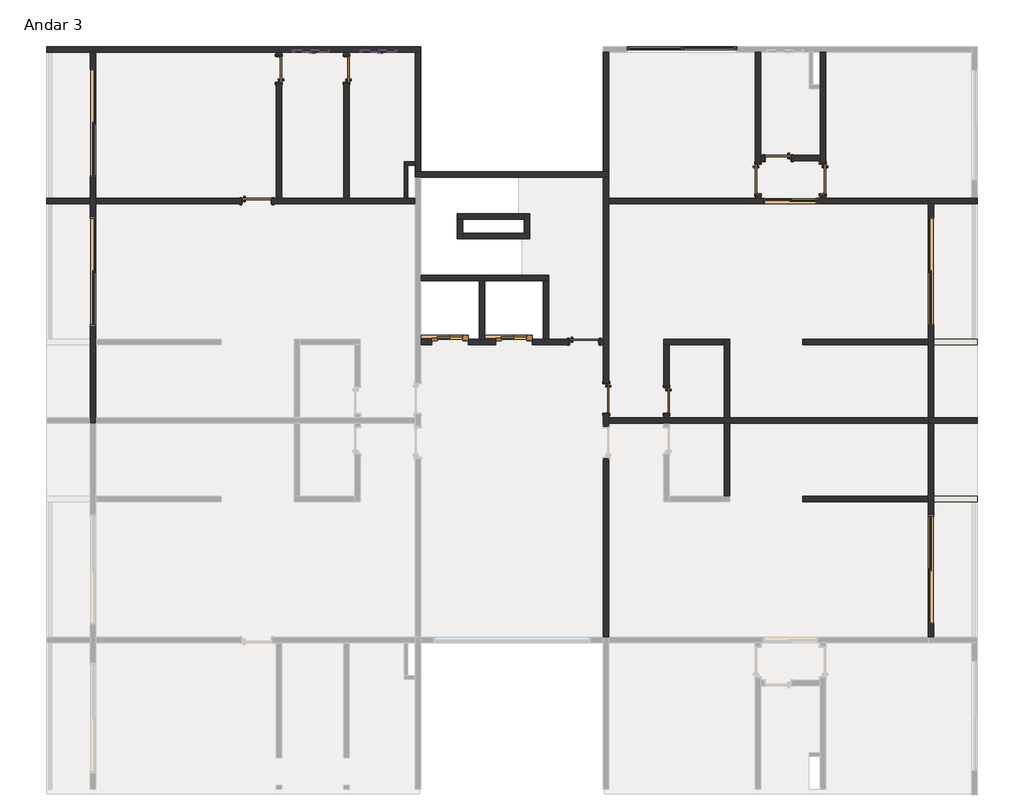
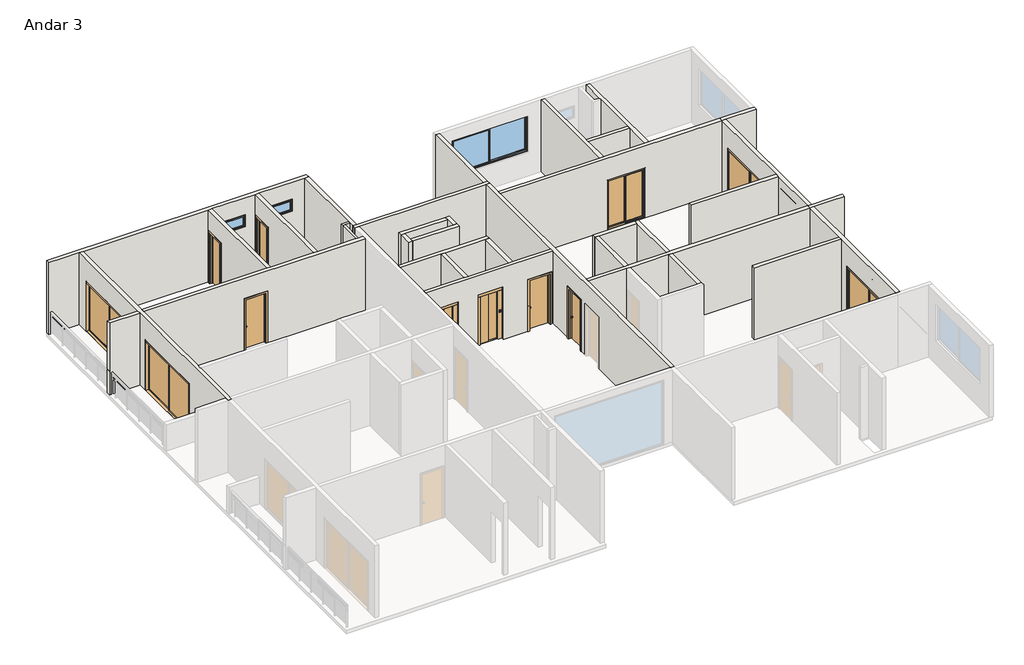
# One storey, part 2 of 3: 37 walls, 16 doors, 3 windows.
"""IFC4 building model written with IfcOpenShell, lengths in millimetres."""

from ifc_helpers import new_model, si_unit, frame, origin, place, context, project, spatial, polyline, outline, extrude, faceted_brep, transform, mapped, element, save
from components import door_ffffc2e2, door_3_00m_x_2_10m_bc451fc0, door_3_00m_x_2_10m_5baaadc1, door_interior_single_flush_panel_wood_70m_89b55d44, door_interior_single_flush_panel_wood_70m_eb1ec4d9, door_interior_single_flush_panel_wood_80m_pcf_cb5077a7, door_interior_single_flush_panel_wood_80m_pcf_192ded05, p2_1_50m_x_2_10m_2a77f288, window_d9182d47, j1_3_00m_x_1_50m_afc201fb

model = new_model("IFC4")

# Units and contexts
model_context = context("Model", 3, world=origin())
ifc_project = project(units=[si_unit("LENGTHUNIT", "METRE", prefix="MILLI")], contexts=[model_context])

# Site, building, storey
site = spatial("IfcSite", under=ifc_project)
building = spatial("IfcBuilding", under=site)
storey = spatial("IfcBuildingStorey", under=building, Name="Andar 3", Elevation=9150.0)

# Doors
placement = place(None, origin())
door_shape = door_ffffc2e2(model_context)
element("IfcDoor", 1, ObjectType="Porta do elevador : Porta do elevador", at=placement, inside=storey, context=model_context, shape_type="MappedRepresentation", body=[
    mapped(door_shape, transform((16900.0, 14650.0, 9150.0), x_axis=(1.0, 0.0, 0.0), y_axis=(0.0, 1.0, 0.0), z_axis=(0.0, 0.0, 1.0))),
])
element("IfcDoor", 2, ObjectType="Porta do elevador : Porta do elevador", at=placement, inside=storey, context=model_context, shape_type="MappedRepresentation", body=[
    mapped(door_shape, transform((18650.0, 14650.0, 9150.0), x_axis=(1.0, 0.0, 0.0), y_axis=(0.0, 1.0, 0.0), z_axis=(0.0, 0.0, 1.0))),
])
door_3_00m_x_2_10m_shape = door_3_00m_x_2_10m_bc451fc0(model_context)
element("IfcDoor", 3, ObjectType="Porta de Correr - 2 Folhas - ComPainel 1 : 3.00m x 2.10m", at=placement, inside=storey, context=model_context, shape_type="MappedRepresentation", body=[
    mapped(door_3_00m_x_2_10m_shape, transform((7275.0, 16604.2060771, 9150.0), x_axis=(0.0, -1.0, 0.0), y_axis=(1.0, 0.0, 0.0), z_axis=(0.0, 0.0, 1.0))),
])
element("IfcDoor", 4, ObjectType="Porta de Correr - 2 Folhas - ComPainel 1 : 3.00m x 2.10m", at=placement, inside=storey, context=model_context, shape_type="MappedRepresentation", body=[
    mapped(door_3_00m_x_2_10m_shape, transform((7275.0, 20664.2060771, 9150.0), x_axis=(0.0, -1.0, 0.0), y_axis=(1.0, 0.0, 0.0), z_axis=(0.0, 0.0, 1.0))),
])
element("IfcDoor", 5, ObjectType="Porta de Correr - 2 Folhas - ComPainel 1 : 3.00m x 2.10m", at=placement, inside=storey, context=model_context, shape_type="MappedRepresentation", body=[
    mapped(door_3_00m_x_2_10m_shape, transform((30175.0, 8395.7939229, 9150.0), x_axis=(0.0, 1.0, 0.0), y_axis=(-1.0, 0.0, 0.0), z_axis=(0.0, 0.0, 1.0))),
])
door_3_00m_x_2_10m_2_shape = door_3_00m_x_2_10m_5baaadc1(model_context)
element("IfcDoor", 6, ObjectType="Porta de Correr - 2 Folhas - ComPainel 1 : 3.00m x 2.10m", at=placement, inside=storey, context=model_context, shape_type="MappedRepresentation", body=[
    mapped(door_3_00m_x_2_10m_2_shape, transform((30175.0, 16604.2060771, 9150.0), x_axis=(0.0, -1.0, 0.0), y_axis=(1.0, 0.0, 0.0), z_axis=(0.0, 0.0, 1.0))),
])
door_interior_single_flush_panel_wood_70m_shape = door_interior_single_flush_panel_wood_70m_89b55d44(model_context)
element("IfcDoor", 7, ObjectType="Door-Interior-Single-Flush_Panel-Wood : .70m", at=placement, inside=storey, context=model_context, shape_type="MappedRepresentation", body=[
    mapped(door_interior_single_flush_panel_wood_70m_shape, transform((22953.175, 13050.4, 9150.0), x_axis=(0.0, -1.0, 0.0), y_axis=(1.0, 0.0, 0.0), z_axis=(0.0, 0.0, 1.0))),
])
door_interior_single_flush_panel_wood_70m_2_shape = door_interior_single_flush_panel_wood_70m_eb1ec4d9(model_context)
element("IfcDoor", 8, ObjectType="Door-Interior-Single-Flush_Panel-Wood : .70m", at=placement, inside=storey, context=model_context, shape_type="MappedRepresentation", body=[
    mapped(door_interior_single_flush_panel_wood_70m_2_shape, transform((14203.175, 22099.6, 9150.0), x_axis=(0.0, 1.0, 0.0), y_axis=(-1.0, 0.0, 0.0), z_axis=(0.0, 0.0, 1.0))),
])
element("IfcDoor", 9, ObjectType="Door-Interior-Single-Flush_Panel-Wood : .70m", at=placement, inside=storey, context=model_context, shape_type="MappedRepresentation", body=[
    mapped(door_interior_single_flush_panel_wood_70m_2_shape, transform((26000.4, 19678.575, 9150.0), x_axis=(-1.0, 0.0, 0.0), y_axis=(0.0, -1.0, 0.0), z_axis=(0.0, 0.0, 1.0))),
])
element("IfcDoor", 10, ObjectType="Door-Interior-Single-Flush_Panel-Wood : .70m", at=placement, inside=storey, context=model_context, shape_type="MappedRepresentation", body=[
    mapped(door_interior_single_flush_panel_wood_70m_2_shape, transform((12353.175, 22099.6, 9150.0), x_axis=(0.0, 1.0, 0.0), y_axis=(-1.0, 0.0, 0.0), z_axis=(0.0, 0.0, 1.0))),
])
door_interior_single_flush_panel_wood_80m_pcf_shape = door_interior_single_flush_panel_wood_80m_pcf_cb5077a7(model_context)
element("IfcDoor", 11, ObjectType="Door-Interior-Single-Flush_Panel-Wood : .80m", at=placement, inside=storey, context=model_context, shape_type="MappedRepresentation", body=[
    mapped(door_interior_single_flush_panel_wood_80m_pcf_shape, transform((25446.825, 19100.4, 9150.0), x_axis=(0.0, -1.0, 0.0), y_axis=(1.0, 0.0, 0.0), z_axis=(0.0, 0.0, 1.0))),
])
door_interior_single_flush_panel_wood_80m_pcf_2_shape = door_interior_single_flush_panel_wood_80m_pcf_192ded05(model_context)
element("IfcDoor", 12, ObjectType="Door-Interior-Single-Flush_Panel-Wood : .80m", at=placement, inside=storey, context=model_context, shape_type="MappedRepresentation", body=[
    mapped(door_interior_single_flush_panel_wood_80m_pcf_2_shape, transform((11749.6, 18503.175, 9150.0), x_axis=(1.0, 0.0, 0.0), y_axis=(0.0, 1.0, 0.0), z_axis=(0.0, 0.0, 1.0))),
])
element("IfcDoor", 13, ObjectType="Door-Interior-Single-Flush_Panel-Wood : .80m", at=placement, inside=storey, context=model_context, shape_type="MappedRepresentation", body=[
    mapped(door_interior_single_flush_panel_wood_80m_pcf_2_shape, transform((27228.175, 19100.4, 9150.0), x_axis=(0.0, -1.0, 0.0), y_axis=(1.0, 0.0, 0.0), z_axis=(0.0, 0.0, 1.0))),
])
element("IfcDoor", 14, ObjectType="Door-Interior-Single-Flush_Panel-Wood : .80m - PCF", at=placement, inside=storey, context=model_context, shape_type="MappedRepresentation", body=[
    mapped(door_interior_single_flush_panel_wood_80m_pcf_2_shape, transform((21303.175, 13100.4, 9150.0), x_axis=(0.0, -1.0, 0.0), y_axis=(1.0, 0.0, 0.0), z_axis=(0.0, 0.0, 1.0))),
])
element("IfcDoor", 15, ObjectType="Door-Interior-Single-Flush_Panel-Wood : .80m - PCF", at=placement, inside=storey, context=model_context, shape_type="MappedRepresentation", body=[
    mapped(door_interior_single_flush_panel_wood_80m_pcf_2_shape, transform((20699.6, 14653.175, 9150.0), x_axis=(1.0, 0.0, 0.0), y_axis=(0.0, 1.0, 0.0), z_axis=(0.0, 0.0, 1.0))),
])
p2_1_50m_x_2_10m_shape = p2_1_50m_x_2_10m_2a77f288(model_context)
element("IfcDoor", 16, ObjectType="Porta de Correr - 2 Folhas - ComPainel 1 : P2 - 1.50m x 2.10m", at=placement, inside=storey, context=model_context, shape_type="MappedRepresentation", body=[
    mapped(p2_1_50m_x_2_10m_shape, transform((26308.2939229, 18500.0, 9150.0), x_axis=(1.0, 0.0, 0.0), y_axis=(0.0, 1.0, 0.0), z_axis=(0.0, 0.0, 1.0))),
])

# Walls
element("IfcWall", 17, ObjectType="M_Parede Normal - 10cm - Interna", at=placement, inside=storey, context=model_context, shape_type="Brep", body=[
    faceted_brep([(16075.0, 19575.0, 9150.0), (15775.0, 19575.0, 9150.0), (15775.0, 19575.0, 12150.0), (16075.0, 19575.0, 12150.0), (16075.0, 19475.0, 9150.0), (16075.0, 19475.0, 12150.0), (15875.0, 19475.0, 12150.0), (15775.0, 19475.0, 12150.0), (15775.0, 19475.0, 9150.0), (15875.0, 19475.0, 9150.0)], [[[0, 1, 2, 3]], [[4, 5, 6, 7, 8, 9]], [[1, 0, 4, 9, 8]], [[3, 2, 7, 6, 5]], [[0, 3, 5, 4]], [[2, 1, 8, 7]]]),
])
element("IfcWall", 18, ObjectType="M_Parede Normal - 10cm - Interna", at=placement, inside=storey, context=model_context, shape_type="SweptSolid", body=[
    extrude(outline(polyline([(15775.0, 18575.0), (15775.0, 19475.0), (15875.0, 19475.0), (15875.0, 18575.0), (15775.0, 18575.0)])), frame((0.0, 0.0, 9150.0), z_axis=(0.0, 0.0, 1.0), x_axis=(1.0, 0.0, 0.0)), (0.0, 0.0, 1.0), 3000.0),
])
element("IfcWall", 19, ObjectType="M_Parede Normal - 15cm - Externa", at=placement, inside=storey, context=model_context, shape_type="Brep", body=[
    faceted_brep([(16075.0, 22575.0, 9150.0), (16075.0, 19575.0, 9150.0), (16075.0, 19475.0, 9150.0), (16075.0, 19299.2009656, 9150.0), (16075.0, 19299.2009656, 12150.0), (16075.0, 19475.0, 12150.0), (16075.0, 19575.0, 12150.0), (16075.0, 22525.0, 12150.0), (16075.0, 22575.0, 12150.0), (16225.0, 22575.0, 9150.0), (16225.0, 22575.0, 12150.0), (16225.0, 19299.2009656, 12150.0), (16225.0, 19299.2009656, 9150.0)], [[[0, 1, 2, 3, 4, 5, 6, 7, 8]], [[9, 10, 11, 12]], [[3, 2, 1, 0, 9, 12]], [[8, 7, 6, 5, 4, 11, 10]], [[0, 8, 10, 9]], [[4, 3, 12, 11]]]),
])
element("IfcWall", 20, ObjectType="M_Parede Normal - 15cm - Externa", at=placement, inside=storey, context=model_context, shape_type="Brep", body=[
    faceted_brep([(6000.0, 22575.0, 9150.0), (7200.0, 22575.0, 9150.0), (7350.0, 22575.0, 9150.0), (12275.0, 22575.0, 9150.0), (12425.0, 22575.0, 9150.0), (14125.0, 22575.0, 9150.0), (14275.0, 22575.0, 9150.0), (16075.0, 22575.0, 9150.0), (16225.0, 22575.0, 9150.0), (16225.0, 22575.0, 12150.0), (16075.0, 22575.0, 12150.0), (15725.0, 22575.0, 12150.0), (14275.0, 22575.0, 12150.0), (14125.0, 22575.0, 12150.0), (12425.0, 22575.0, 12150.0), (12275.0, 22575.0, 12150.0), (7350.0, 22575.0, 12150.0), (7200.0, 22575.0, 12150.0), (6500.0, 22575.0, 12150.0), (6000.0, 22575.0, 12150.0), (15575.0, 22575.0, 11450.0), (15575.0, 22575.0, 10950.0), (14575.0, 22575.0, 10950.0), (14575.0, 22575.0, 11450.0), (13725.0, 22575.0, 11450.0), (13725.0, 22575.0, 10950.0), (12725.0, 22575.0, 10950.0), (12725.0, 22575.0, 11450.0), (16225.0, 22725.0, 9150.0), (6000.0, 22725.0, 9150.0), (6000.0, 22725.0, 12150.0), (16225.0, 22725.0, 12150.0), (15575.0, 22725.0, 10950.0), (15575.0, 22725.0, 11450.0), (14575.0, 22725.0, 11450.0), (14575.0, 22725.0, 10950.0), (13725.0, 22725.0, 10950.0), (13725.0, 22725.0, 11450.0), (12725.0, 22725.0, 11450.0), (12725.0, 22725.0, 10950.0)], [[[0, 1, 2, 3, 4, 5, 6, 7, 8, 9, 10, 11, 12, 13, 14, 15, 16, 17, 18, 19], [20, 21, 22, 23], [24, 25, 26, 27]], [[28, 29, 30, 31], [32, 33, 34, 35], [36, 37, 38, 39]], [[8, 7, 6, 5, 4, 3, 2, 1, 0, 29, 28]], [[19, 18, 17, 16, 15, 14, 13, 12, 11, 10, 9, 31, 30]], [[0, 19, 30, 29]], [[32, 21, 20, 33]], [[34, 23, 22, 35]], [[21, 32, 35, 22]], [[23, 34, 33, 20]], [[37, 36, 25, 24]], [[38, 37, 24, 27]], [[39, 38, 27, 26]], [[36, 39, 26, 25]], [[9, 8, 28, 31]]]),
])
element("IfcWall", 21, ObjectType="M_Parede Normal - 15cm - Externa", at=placement, inside=storey, context=model_context, shape_type="Brep", body=[
    faceted_brep([(31450.0, 12575.0, 9150.0), (30250.0, 12575.0, 9150.0), (30100.0, 12575.0, 9150.0), (30100.0, 12575.0, 12150.0), (30250.0, 12575.0, 12150.0), (30950.0, 12575.0, 12150.0), (31450.0, 12575.0, 12150.0), (31450.0, 12425.0, 9150.0), (31450.0, 12425.0, 12150.0), (30950.0, 12425.0, 12150.0), (30250.0, 12425.0, 12150.0), (30100.0, 12425.0, 12150.0), (30100.0, 12425.0, 9150.0), (30250.0, 12425.0, 9150.0)], [[[0, 1, 2, 3, 4, 5, 6]], [[7, 8, 9, 10, 11, 12, 13]], [[2, 1, 0, 7, 13, 12]], [[6, 5, 4, 3, 11, 10, 9, 8]], [[0, 6, 8, 7]], [[3, 2, 12, 11]]]),
])
element("IfcWall", 22, ObjectType="M_Parede Normal - 15cm - Externa", at=placement, inside=storey, context=model_context, shape_type="Brep", body=[
    faceted_brep([(7350.0, 22575.0, 12150.0), (7350.0, 18575.0, 12150.0), (7350.0, 18425.0, 12150.0), (7350.0, 12575.0, 12150.0), (7350.0, 12425.0, 12150.0), (7350.0, 12425.0, 9150.0), (7350.0, 12575.0, 9150.0), (7350.0, 15075.0, 9150.0), (7350.0, 15075.0, 11250.0), (7350.0, 18075.0, 11250.0), (7350.0, 18075.0, 9150.0), (7350.0, 18425.0, 9150.0), (7350.0, 18575.0, 9150.0), (7350.0, 19135.0, 9150.0), (7350.0, 19135.0, 11250.0), (7350.0, 22135.0, 11250.0), (7350.0, 22135.0, 9150.0), (7350.0, 22575.0, 9150.0), (7200.0, 12425.0, 12150.0), (7200.0, 12575.0, 12150.0), (7200.0, 18425.0, 12150.0), (7200.0, 18575.0, 12150.0), (7200.0, 22575.0, 12150.0), (7200.0, 22575.0, 9150.0), (7200.0, 22135.0, 9150.0), (7200.0, 22135.0, 11250.0), (7200.0, 19135.0, 11250.0), (7200.0, 19135.0, 9150.0), (7200.0, 18575.0, 9150.0), (7200.0, 18425.0, 9150.0), (7200.0, 18075.0, 9150.0), (7200.0, 18075.0, 11250.0), (7200.0, 15075.0, 11250.0), (7200.0, 15075.0, 9150.0), (7200.0, 12575.0, 9150.0), (7200.0, 12425.0, 9150.0)], [[[0, 1, 2, 3, 4, 5, 6, 7, 8, 9, 10, 11, 12, 13, 14, 15, 16, 17]], [[18, 19, 20, 21, 22, 23, 24, 25, 26, 27, 28, 29, 30, 31, 32, 33, 34, 35]], [[23, 17, 16, 24]], [[10, 30, 29, 28, 27, 13, 12, 11]], [[7, 6, 5, 35, 34, 33]], [[4, 3, 2, 1, 0, 22, 21, 20, 19, 18]], [[0, 17, 23, 22]], [[32, 8, 7, 33]], [[8, 32, 31, 9]], [[9, 31, 30, 10]], [[26, 14, 13, 27]], [[14, 26, 25, 15]], [[15, 25, 24, 16]], [[5, 4, 18, 35]]]),
])
element("IfcWall", 23, ObjectType="M_Parede Normal - 15cm - Externa", at=placement, inside=storey, context=model_context, shape_type="Brep", body=[
    faceted_brep([(21225.0, 22575.0, 9150.0), (21225.0, 19299.2009656, 9150.0), (21225.0, 19299.2009656, 12150.0), (21225.0, 22575.0, 12150.0), (21375.0, 22575.0, 9150.0), (21375.0, 22575.0, 12150.0), (21375.0, 22525.0, 12150.0), (21375.0, 19299.2009656, 12150.0), (21375.0, 19299.2009656, 9150.0)], [[[0, 1, 2, 3]], [[4, 5, 6, 7, 8]], [[1, 0, 4, 8]], [[3, 2, 7, 6, 5]], [[0, 3, 5, 4]], [[2, 1, 8, 7]]]),
])
element("IfcWall", 24, ObjectType="M_Parede Normal - 15cm - Externa", at=placement, inside=storey, context=model_context, shape_type="Brep", body=[
    faceted_brep([(30250.0, 18425.0, 12150.0), (30250.0, 12575.0, 12150.0), (30250.0, 12575.0, 9150.0), (30250.0, 15075.0, 9150.0), (30250.0, 15075.0, 11250.0), (30250.0, 18075.0, 11250.0), (30250.0, 18075.0, 9150.0), (30250.0, 18425.0, 9150.0), (30100.0, 12575.0, 12150.0), (30100.0, 14575.0, 12150.0), (30100.0, 14725.0, 12150.0), (30100.0, 18425.0, 12150.0), (30100.0, 18425.0, 9150.0), (30100.0, 18075.0, 9150.0), (30100.0, 18075.0, 11250.0), (30100.0, 15075.0, 11250.0), (30100.0, 15075.0, 9150.0), (30100.0, 14725.0, 9150.0), (30100.0, 14575.0, 9150.0), (30100.0, 12575.0, 9150.0)], [[[0, 1, 2, 3, 4, 5, 6, 7]], [[8, 9, 10, 11, 12, 13, 14, 15, 16, 17, 18, 19]], [[12, 7, 6, 13]], [[2, 19, 18, 17, 16, 3]], [[1, 0, 11, 10, 9, 8]], [[0, 7, 12, 11]], [[15, 4, 3, 16]], [[4, 15, 14, 5]], [[5, 14, 13, 6]], [[2, 1, 8, 19]]]),
])
element("IfcWall", 25, ObjectType="M_Parede Normal - 15cm - Externa", at=placement, inside=storey, context=model_context, shape_type="SweptSolid", body=[
    extrude(outline(polyline([(30250.0, 14725.0), (31450.0, 14725.0), (31450.0, 14575.0), (30250.0, 14575.0), (30250.0, 14725.0)])), frame((0.0, 0.0, 9150.0), z_axis=(0.0, 0.0, 1.0), x_axis=(1.0, 0.0, 0.0)), (0.0, 0.0, 1.0), 1100.0),
])
element("IfcWall", 26, ObjectType="M_Parede Normal - 15cm - Externa", at=placement, inside=storey, context=model_context, shape_type="SweptSolid", body=[
    extrude(outline(polyline([(6000.0, 18575.0), (7200.0, 18575.0), (7200.0, 18425.0), (6000.0, 18425.0), (6000.0, 18575.0)])), frame((0.0, 0.0, 9150.0), z_axis=(0.0, 0.0, 1.0), x_axis=(1.0, 0.0, 0.0)), (0.0, 0.0, 1.0), 3000.0),
])
element("IfcWall", 27, ObjectType="M_Parede Normal - 15cm - Externa", at=placement, inside=storey, context=model_context, shape_type="Brep", body=[
    faceted_brep([(30100.0, 18425.0, 9150.0), (30250.0, 18425.0, 9150.0), (31450.0, 18425.0, 9150.0), (31450.0, 18425.0, 12150.0), (30250.0, 18425.0, 12150.0), (30100.0, 18425.0, 12150.0), (30100.0, 18575.0, 9150.0), (30100.0, 18575.0, 12150.0), (31300.0, 18575.0, 12150.0), (31450.0, 18575.0, 12150.0), (31450.0, 18575.0, 9150.0), (31300.0, 18575.0, 9150.0)], [[[0, 1, 2, 3, 4, 5]], [[6, 7, 8, 9, 10, 11]], [[2, 1, 0, 6, 11, 10]], [[5, 4, 3, 9, 8, 7]], [[3, 2, 10, 9]], [[0, 5, 7, 6]]]),
])
element("IfcWall", 28, ObjectType="M_Parede Normal - 15cm - Externa", at=placement, inside=storey, context=model_context, shape_type="Brep", body=[
    faceted_brep([(30100.0, 6575.0, 12150.0), (30100.0, 10275.0, 12150.0), (30100.0, 10425.0, 12150.0), (30100.0, 12425.0, 12150.0), (30100.0, 12425.0, 9150.0), (30100.0, 10425.0, 9150.0), (30100.0, 10275.0, 9150.0), (30100.0, 9925.0, 9150.0), (30100.0, 9925.0, 11250.0), (30100.0, 6925.0, 11250.0), (30100.0, 6925.0, 9150.0), (30100.0, 6575.0, 9150.0), (30250.0, 12425.0, 12150.0), (30250.0, 6575.0, 12150.0), (30250.0, 6575.0, 9150.0), (30250.0, 6925.0, 9150.0), (30250.0, 6925.0, 11250.0), (30250.0, 9925.0, 11250.0), (30250.0, 9925.0, 9150.0), (30250.0, 12425.0, 9150.0)], [[[0, 1, 2, 3, 4, 5, 6, 7, 8, 9, 10, 11]], [[12, 13, 14, 15, 16, 17, 18, 19]], [[14, 11, 10, 15]], [[4, 19, 18, 7, 6, 5]], [[3, 2, 1, 0, 13, 12]], [[0, 11, 14, 13]], [[4, 3, 12, 19]], [[17, 8, 7, 18]], [[8, 17, 16, 9]], [[9, 16, 15, 10]]]),
])
element("IfcWall", 29, ObjectType="M_Parede Normal - 15cm - Externa", at=placement, inside=storey, context=model_context, shape_type="SweptSolid", body=[
    extrude(outline(polyline([(30250.0, 10425.0), (31450.0, 10425.0), (31450.0, 10275.0), (30250.0, 10275.0), (30250.0, 10425.0)])), frame((0.0, 0.0, 9150.0), z_axis=(0.0, 0.0, 1.0), x_axis=(1.0, 0.0, 0.0)), (0.0, 0.0, 1.0), 1100.0),
])
element("IfcWall", 30, ObjectType="M_Parede Normal - 15cm - Externa", at=placement, inside=storey, context=model_context, shape_type="Brep", body=[
    faceted_brep([(16075.0, 19149.2009656, 9150.0), (16225.0, 19149.2009656, 9150.0), (21225.0, 19149.2009656, 9150.0), (21375.0, 19149.2009656, 9150.0), (21375.0, 19149.2009656, 12150.0), (21225.0, 19149.2009656, 12150.0), (20875.0, 19149.2009656, 12150.0), (16575.0, 19149.2009656, 12150.0), (16225.0, 19149.2009656, 12150.0), (16075.0, 19149.2009656, 12150.0), (16075.0, 19299.2009656, 9150.0), (16075.0, 19299.2009656, 12150.0), (16225.0, 19299.2009656, 12150.0), (21225.0, 19299.2009656, 12150.0), (21375.0, 19299.2009656, 12150.0), (21375.0, 19299.2009656, 9150.0), (21225.0, 19299.2009656, 9150.0), (16225.0, 19299.2009656, 9150.0)], [[[0, 1, 2, 3, 4, 5, 6, 7, 8, 9]], [[10, 11, 12, 13, 14, 15, 16, 17]], [[3, 2, 1, 0, 10, 17, 16, 15]], [[9, 8, 7, 6, 5, 4, 14, 13, 12, 11]], [[0, 9, 11, 10]], [[4, 3, 15, 14]]]),
])
element("IfcWall", 31, ObjectType="M_Parede Normal - 15cm - Interna", at=placement, inside=storey, context=model_context, shape_type="Brep", body=[
    faceted_brep([(7350.0, 18575.0, 12150.0), (12275.0, 18575.0, 12150.0), (12425.0, 18575.0, 12150.0), (14125.0, 18575.0, 12150.0), (14275.0, 18575.0, 12150.0), (15775.0, 18575.0, 12150.0), (15875.0, 18575.0, 12150.0), (16075.0, 18575.0, 12150.0), (16075.0, 18575.0, 9150.0), (15875.0, 18575.0, 9150.0), (15775.0, 18575.0, 9150.0), (14275.0, 18575.0, 9150.0), (14125.0, 18575.0, 9150.0), (12425.0, 18575.0, 9150.0), (12275.0, 18575.0, 9150.0), (12175.0, 18575.0, 9150.0), (12175.0, 18575.0, 11275.4), (11324.2, 18575.0, 11275.4), (11324.2, 18575.0, 9150.0), (7350.0, 18575.0, 9150.0), (16075.0, 18425.0, 12150.0), (7350.0, 18425.0, 12150.0), (7350.0, 18425.0, 9150.0), (11324.2, 18425.0, 9150.0), (11324.2, 18425.0, 11275.4), (12175.0, 18425.0, 11275.4), (12175.0, 18425.0, 9150.0), (16075.0, 18425.0, 9150.0)], [[[0, 1, 2, 3, 4, 5, 6, 7, 8, 9, 10, 11, 12, 13, 14, 15, 16, 17, 18, 19]], [[20, 21, 22, 23, 24, 25, 26, 27]], [[8, 27, 26, 15, 14, 13, 12, 11, 10, 9]], [[22, 19, 18, 23]], [[7, 6, 5, 4, 3, 2, 1, 0, 21, 20]], [[8, 7, 20, 27]], [[25, 16, 15, 26]], [[16, 25, 24, 17]], [[17, 24, 23, 18]], [[0, 19, 22, 21]]]),
])
element("IfcWall", 32, ObjectType="M_Parede Normal - 15cm - Interna", at=placement, inside=storey, context=model_context, shape_type="SweptSolid", body=[
    extrude(outline(polyline([(18575.0, 12150.0), (22575.0, 12150.0), (22575.0, 9150.0), (22475.0, 9150.0), (22475.0, 11275.4), (21724.2, 11275.4), (21724.2, 9150.0), (18575.0, 9150.0), (18575.0, 12150.0)])), frame((14125.0, 0.0, 0.0), z_axis=(1.0, 0.0, 0.0), x_axis=(0.0, 1.0, 0.0)), (0.0, 0.0, 1.0), 150.0),
])
element("IfcWall", 33, ObjectType="M_Parede Normal - 15cm - Interna", at=placement, inside=storey, context=model_context, shape_type="Brep", body=[
    faceted_brep([(30100.0, 18425.0, 12150.0), (21375.0, 18425.0, 12150.0), (21375.0, 18425.0, 9150.0), (25587.5, 18425.0, 9150.0), (25587.5, 18425.0, 11250.0), (27087.5, 18425.0, 11250.0), (27087.5, 18425.0, 9150.0), (30100.0, 18425.0, 9150.0), (21375.0, 18575.0, 12150.0), (25375.0, 18575.0, 12150.0), (25525.0, 18575.0, 12150.0), (27150.0, 18575.0, 12150.0), (27300.0, 18575.0, 12150.0), (30100.0, 18575.0, 12150.0), (30100.0, 18575.0, 9150.0), (27300.0, 18575.0, 9150.0), (27150.0, 18575.0, 9150.0), (27087.5, 18575.0, 9150.0), (27087.5, 18575.0, 11250.0), (25587.5, 18575.0, 11250.0), (25587.5, 18575.0, 9150.0), (25525.0, 18575.0, 9150.0), (25375.0, 18575.0, 9150.0), (21375.0, 18575.0, 9150.0)], [[[0, 1, 2, 3, 4, 5, 6, 7]], [[8, 9, 10, 11, 12, 13, 14, 15, 16, 17, 18, 19, 20, 21, 22, 23]], [[2, 23, 22, 21, 20, 3]], [[14, 7, 6, 17, 16, 15]], [[1, 0, 13, 12, 11, 10, 9, 8]], [[2, 1, 8, 23]], [[0, 7, 14, 13]], [[5, 18, 17, 6]], [[18, 5, 4, 19]], [[19, 4, 3, 20]]]),
])
element("IfcWall", 34, ObjectType="M_Parede Normal - 15cm - Interna", at=placement, inside=storey, context=model_context, shape_type="SweptSolid", body=[
    extrude(outline(polyline([(12575.0, 12150.0), (14575.0, 12150.0), (14575.0, 9150.0), (13425.8, 9150.0), (13425.8, 11275.4), (12675.0, 11275.4), (12675.0, 9150.0), (12575.0, 9150.0), (12575.0, 12150.0)])), frame((22875.0, 0.0, 0.0), z_axis=(1.0, 0.0, 0.0), x_axis=(0.0, 1.0, 0.0)), (0.0, 0.0, 1.0), 150.0),
])
element("IfcWall", 35, ObjectType="M_Parede Normal - 15cm - Interna", at=placement, inside=storey, context=model_context, shape_type="Brep", body=[
    faceted_brep([(22875.0, 14575.0, 9150.0), (23025.0, 14575.0, 9150.0), (24525.0, 14575.0, 9150.0), (24525.0, 14575.0, 12150.0), (23025.0, 14575.0, 12150.0), (22875.0, 14575.0, 12150.0), (22875.0, 14725.0, 9150.0), (22875.0, 14725.0, 12150.0), (24525.0, 14725.0, 12150.0), (24525.0, 14725.0, 9150.0)], [[[0, 1, 2, 3, 4, 5]], [[6, 7, 8, 9]], [[2, 1, 0, 6, 9]], [[5, 4, 3, 8, 7]], [[0, 5, 7, 6]], [[3, 2, 9, 8]]]),
])
element("IfcWall", 36, ObjectType="M_Parede Normal - 15cm - Interna", at=placement, inside=storey, context=model_context, shape_type="Brep", body=[
    faceted_brep([(24525.0, 14725.0, 9150.0), (24525.0, 14575.0, 9150.0), (24525.0, 12575.0, 9150.0), (24525.0, 12575.0, 12150.0), (24525.0, 14575.0, 12150.0), (24525.0, 14725.0, 12150.0), (24675.0, 14725.0, 9150.0), (24675.0, 14725.0, 12150.0), (24675.0, 12575.0, 12150.0), (24675.0, 12575.0, 9150.0)], [[[0, 1, 2, 3, 4, 5]], [[6, 7, 8, 9]], [[2, 1, 0, 6, 9]], [[5, 4, 3, 8, 7]], [[0, 5, 7, 6]], [[3, 2, 9, 8]]]),
])
element("IfcWall", 37, ObjectType="M_Parede Normal - 15cm - Interna", at=placement, inside=storey, context=model_context, shape_type="Brep", body=[
    faceted_brep([(27300.0, 22575.0, 12150.0), (27300.0, 18575.0, 12150.0), (27300.0, 18575.0, 9150.0), (27300.0, 18675.0, 9150.0), (27300.0, 18675.0, 11275.4), (27300.0, 19525.8, 11275.4), (27300.0, 19525.8, 9150.0), (27300.0, 22575.0, 9150.0), (27150.0, 18575.0, 12150.0), (27150.0, 19600.4, 12150.0), (27150.0, 19750.4, 12150.0), (27150.0, 21575.0, 12150.0), (27150.0, 21675.0, 12150.0), (27150.0, 22575.0, 12150.0), (27150.0, 22575.0, 9150.0), (27150.0, 21675.0, 9150.0), (27150.0, 21575.0, 9150.0), (27150.0, 19750.4, 9150.0), (27150.0, 19600.4, 9150.0), (27150.0, 19525.8, 9150.0), (27150.0, 19525.8, 11275.4), (27150.0, 18675.0, 11275.4), (27150.0, 18675.0, 9150.0), (27150.0, 18575.0, 9150.0)], [[[0, 1, 2, 3, 4, 5, 6, 7]], [[8, 9, 10, 11, 12, 13, 14, 15, 16, 17, 18, 19, 20, 21, 22, 23]], [[2, 23, 22, 3]], [[14, 7, 6, 19, 18, 17, 16, 15]], [[1, 0, 13, 12, 11, 10, 9, 8]], [[2, 1, 8, 23]], [[0, 7, 14, 13]], [[21, 4, 3, 22]], [[4, 21, 20, 5]], [[5, 20, 19, 6]]]),
])
element("IfcWall", 38, ObjectType="M_Parede Normal - 15cm - Interna", at=placement, inside=storey, context=model_context, shape_type="Brep", body=[
    faceted_brep([(25525.0, 22575.0, 12150.0), (25525.0, 19750.4, 12150.0), (25525.0, 19600.4, 12150.0), (25525.0, 18575.0, 12150.0), (25525.0, 18575.0, 9150.0), (25525.0, 18675.0, 9150.0), (25525.0, 18675.0, 11275.4), (25525.0, 19525.8, 11275.4), (25525.0, 19525.8, 9150.0), (25525.0, 19600.4, 9150.0), (25525.0, 19750.4, 9150.0), (25525.0, 22575.0, 9150.0), (25375.0, 18575.0, 12150.0), (25375.0, 22575.0, 12150.0), (25375.0, 22575.0, 9150.0), (25375.0, 19525.8, 9150.0), (25375.0, 19525.8, 11275.4), (25375.0, 18675.0, 11275.4), (25375.0, 18675.0, 9150.0), (25375.0, 18575.0, 9150.0)], [[[0, 1, 2, 3, 4, 5, 6, 7, 8, 9, 10, 11]], [[12, 13, 14, 15, 16, 17, 18, 19]], [[4, 19, 18, 5]], [[14, 11, 10, 9, 8, 15]], [[3, 2, 1, 0, 13, 12]], [[4, 3, 12, 19]], [[0, 11, 14, 13]], [[17, 6, 5, 18]], [[6, 17, 16, 7]], [[7, 16, 15, 8]]]),
])
element("IfcWall", 39, ObjectType="M_Parede Normal - 15cm - Interna", at=placement, inside=storey, context=model_context, shape_type="SweptSolid", body=[
    extrude(outline(polyline([(12150.0, 27150.0), (12150.0, 25525.0), (9150.0, 25525.0), (9150.0, 25625.0), (11275.4, 25625.0), (11275.4, 26375.8), (9150.0, 26375.8), (9150.0, 27150.0), (12150.0, 27150.0)])), frame((0.0, 19600.4, 0.0), z_axis=(0.0, 1.0, 0.0), x_axis=(0.0, 0.0, 1.0)), (0.0, 0.0, 1.0), 150.0),
])
element("IfcWall", 40, ObjectType="M_Parede Normal - 15cm - Interna", at=placement, inside=storey, context=model_context, shape_type="Brep", body=[
    faceted_brep([(17225.4, 17998.8009656, 9150.0), (17375.4, 17998.8009656, 9150.0), (19055.0, 17998.8009656, 9150.0), (19055.0, 17998.8009656, 12150.0), (17375.4, 17998.8009656, 12150.0), (17225.4, 17998.8009656, 12150.0), (17225.4, 18148.8009656, 9150.0), (17225.4, 18148.8009656, 12150.0), (19055.0, 18148.8009656, 12150.0), (19055.0, 18148.8009656, 9150.0)], [[[0, 1, 2, 3, 4, 5]], [[6, 7, 8, 9]], [[2, 1, 0, 6, 9]], [[5, 4, 3, 8, 7]], [[0, 5, 7, 6]], [[3, 2, 9, 8]]]),
])
element("IfcWall", 41, ObjectType="M_Parede Normal - 15cm - Interna", at=placement, inside=storey, context=model_context, shape_type="Brep", body=[
    faceted_brep([(17375.4, 17474.2009656, 9150.0), (17375.4, 17624.2009656, 9150.0), (17375.4, 17998.8009656, 9150.0), (17375.4, 17998.8009656, 12150.0), (17375.4, 17624.2009656, 12150.0), (17375.4, 17474.2009656, 12150.0), (17225.4, 17474.2009656, 9150.0), (17225.4, 17474.2009656, 12150.0), (17225.4, 17998.8009656, 12150.0), (17225.4, 17998.8009656, 9150.0)], [[[0, 1, 2, 3, 4, 5]], [[6, 7, 8, 9]], [[2, 1, 0, 6, 9]], [[5, 4, 3, 8, 7]], [[0, 5, 7, 6]], [[3, 2, 9, 8]]]),
])
element("IfcWall", 42, ObjectType="M_Parede Normal - 15cm - Interna", at=placement, inside=storey, context=model_context, shape_type="Brep", body=[
    faceted_brep([(19205.0, 17624.2009656, 9150.0), (19055.0, 17624.2009656, 9150.0), (17375.4, 17624.2009656, 9150.0), (17375.4, 17624.2009656, 12150.0), (19055.0, 17624.2009656, 12150.0), (19205.0, 17624.2009656, 12150.0), (19205.0, 17474.2009656, 9150.0), (19205.0, 17474.2009656, 12150.0), (17375.4, 17474.2009656, 12150.0), (17375.4, 17474.2009656, 9150.0)], [[[0, 1, 2, 3, 4, 5]], [[6, 7, 8, 9]], [[2, 1, 0, 6, 9]], [[5, 4, 3, 8, 7]], [[0, 5, 7, 6]], [[3, 2, 9, 8]]]),
])
element("IfcWall", 43, ObjectType="M_Parede Normal - 15cm - Interna", at=placement, inside=storey, context=model_context, shape_type="Brep", body=[
    faceted_brep([(19055.0, 18148.8009656, 9150.0), (19055.0, 17998.8009656, 9150.0), (19055.0, 17624.2009656, 9150.0), (19055.0, 17624.2009656, 12150.0), (19055.0, 17998.8009656, 12150.0), (19055.0, 18148.8009656, 12150.0), (19205.0, 18148.8009656, 9150.0), (19205.0, 18148.8009656, 12150.0), (19205.0, 17624.2009656, 12150.0), (19205.0, 17624.2009656, 9150.0)], [[[0, 1, 2, 3, 4, 5]], [[6, 7, 8, 9]], [[2, 1, 0, 6, 9]], [[5, 4, 3, 8, 7]], [[0, 5, 7, 6]], [[3, 2, 9, 8]]]),
])
element("IfcWall", 44, ObjectType="M_Parede Normal - 15cm - Interna", at=placement, inside=storey, context=model_context, shape_type="Brep", body=[
    faceted_brep([(16225.0, 16325.0, 9150.0), (17825.0, 16325.0, 9150.0), (17975.0, 16325.0, 9150.0), (19575.0, 16325.0, 9150.0), (19725.0, 16325.0, 9150.0), (19725.0, 16325.0, 12150.0), (19575.0, 16325.0, 12150.0), (17975.0, 16325.0, 12150.0), (17825.0, 16325.0, 12150.0), (16225.0, 16325.0, 12150.0), (16225.0, 16475.0, 9150.0), (16225.0, 16475.0, 12150.0), (16575.0, 16475.0, 12150.0), (19725.0, 16475.0, 12150.0), (19725.0, 16475.0, 9150.0)], [[[0, 1, 2, 3, 4, 5, 6, 7, 8, 9]], [[10, 11, 12, 13, 14]], [[4, 3, 2, 1, 0, 10, 14]], [[9, 8, 7, 6, 5, 13, 12, 11]], [[5, 4, 14, 13]], [[0, 9, 11, 10]]]),
])
element("IfcWall", 45, ObjectType="M_Parede Normal - 15cm - Interna", at=placement, inside=storey, context=model_context, shape_type="Brep", body=[
    faceted_brep([(19275.0, 14575.0, 11350.0), (19275.0, 14575.0, 9150.0), (20274.2, 14575.0, 9150.0), (20274.2, 14575.0, 11275.4), (21125.0, 14575.0, 11275.4), (21125.0, 14575.0, 9150.0), (21225.0, 14575.0, 9150.0), (21225.0, 14575.0, 12150.0), (16225.0, 14575.0, 12150.0), (16225.0, 14575.0, 9150.0), (16525.0, 14575.0, 9150.0), (16525.0, 14575.0, 11350.0), (17525.0, 14575.0, 11350.0), (17525.0, 14575.0, 9150.0), (18275.0, 14575.0, 9150.0), (18275.0, 14575.0, 11350.0), (20274.2, 14725.0, 9150.0), (19725.0, 14725.0, 9150.0), (19575.0, 14725.0, 9150.0), (19275.0, 14725.0, 9150.0), (19275.0, 14725.0, 11350.0), (18275.0, 14725.0, 11350.0), (18275.0, 14725.0, 9150.0), (17975.0, 14725.0, 9150.0), (17825.0, 14725.0, 9150.0), (17525.0, 14725.0, 9150.0), (17525.0, 14725.0, 11350.0), (16525.0, 14725.0, 11350.0), (16525.0, 14725.0, 9150.0), (16225.0, 14725.0, 9150.0), (16225.0, 14725.0, 12150.0), (17825.0, 14725.0, 12150.0), (17975.0, 14725.0, 12150.0), (19575.0, 14725.0, 12150.0), (19725.0, 14725.0, 12150.0), (21225.0, 14725.0, 12150.0), (21225.0, 14725.0, 9150.0), (21125.0, 14725.0, 9150.0), (21125.0, 14725.0, 11275.4), (20274.2, 14725.0, 11275.4)], [[[0, 1, 2, 3, 4, 5, 6, 7, 8, 9, 10, 11, 12, 13, 14, 15]], [[16, 17, 18, 19, 20, 21, 22, 23, 24, 25, 26, 27, 28, 29, 30, 31, 32, 33, 34, 35, 36, 37, 38, 39]], [[36, 6, 5, 37]], [[10, 9, 29, 28]], [[14, 13, 25, 24, 23, 22]], [[2, 1, 19, 18, 17, 16]], [[8, 7, 35, 34, 33, 32, 31, 30]], [[4, 38, 37, 5]], [[38, 4, 3, 39]], [[39, 3, 2, 16]], [[7, 6, 36, 35]], [[9, 8, 30, 29]], [[28, 27, 11, 10]], [[26, 25, 13, 12]], [[27, 26, 12, 11]], [[22, 21, 15, 14]], [[20, 19, 1, 0]], [[21, 20, 0, 15]]]),
])
element("IfcWall", 46, ObjectType="M_Parede Normal - 15cm - Interna", at=placement, inside=storey, context=model_context, shape_type="SweptSolid", body=[
    extrude(outline(polyline([(19575.0, 14725.0), (19575.0, 16325.0), (19725.0, 16325.0), (19725.0, 14725.0), (19575.0, 14725.0)])), frame((0.0, 0.0, 9150.0), z_axis=(0.0, 0.0, 1.0), x_axis=(1.0, 0.0, 0.0)), (0.0, 0.0, 1.0), 3000.0),
])
element("IfcWall", 47, ObjectType="M_Parede Normal - 15cm - Interna", at=placement, inside=storey, context=model_context, shape_type="SweptSolid", body=[
    extrude(outline(polyline([(17825.0, 14725.0), (17825.0, 16325.0), (17975.0, 16325.0), (17975.0, 14725.0), (17825.0, 14725.0)])), frame((0.0, 0.0, 9150.0), z_axis=(0.0, 0.0, 1.0), x_axis=(1.0, 0.0, 0.0)), (0.0, 0.0, 1.0), 3000.0),
])
element("IfcWall", 48, ObjectType="M_Parede Normal - 15cm - Interna", at=placement, inside=storey, context=model_context, shape_type="SweptSolid", body=[
    extrude(outline(polyline([(26675.0, 14725.0), (30100.0, 14725.0), (30100.0, 14575.0), (26675.0, 14575.0), (26675.0, 14725.0)])), frame((0.0, 0.0, 9150.0), z_axis=(0.0, 0.0, 1.0), x_axis=(1.0, 0.0, 0.0)), (0.0, 0.0, 1.0), 3000.0),
])
element("IfcWall", 49, ObjectType="M_Parede Normal - 15cm - Interna", at=placement, inside=storey, context=model_context, shape_type="SweptSolid", body=[
    extrude(outline(polyline([(18575.0, 12150.0), (22575.0, 12150.0), (22575.0, 9150.0), (22475.0, 9150.0), (22475.0, 11275.4), (21724.2, 11275.4), (21724.2, 9150.0), (18575.0, 9150.0), (18575.0, 12150.0)])), frame((12275.0, 0.0, 0.0), z_axis=(1.0, 0.0, 0.0), x_axis=(0.0, 1.0, 0.0)), (0.0, 0.0, 1.0), 150.0),
])
element("IfcWall", 50, ObjectType="M_Parede Normal - 15cm - Interna", at=placement, inside=storey, context=model_context, shape_type="Brep", body=[
    faceted_brep([(21225.0, 6575.0, 12150.0), (21225.0, 6625.0, 12150.0), (21225.0, 14575.0, 12150.0), (21225.0, 14725.0, 12150.0), (21225.0, 19099.2009656, 12150.0), (21225.0, 19149.2009656, 12150.0), (21225.0, 19149.2009656, 9150.0), (21225.0, 14725.0, 9150.0), (21225.0, 14575.0, 9150.0), (21225.0, 13525.8, 9150.0), (21225.0, 13525.8, 11275.4), (21225.0, 12675.0, 11275.4), (21225.0, 12675.0, 9150.0), (21225.0, 12325.0, 9150.0), (21225.0, 12325.0, 11275.4), (21225.0, 11474.2, 11275.4), (21225.0, 11474.2, 9150.0), (21225.0, 6575.0, 9150.0), (21375.0, 19149.2009656, 12150.0), (21375.0, 18575.0, 12150.0), (21375.0, 18425.0, 12150.0), (21375.0, 12600.0, 12150.0), (21375.0, 12575.0, 12150.0), (21375.0, 12425.0, 12150.0), (21375.0, 12400.0, 12150.0), (21375.0, 6575.0, 12150.0), (21375.0, 6575.0, 9150.0), (21375.0, 11474.2, 9150.0), (21375.0, 11474.2, 11275.4), (21375.0, 12325.0, 11275.4), (21375.0, 12325.0, 9150.0), (21375.0, 12425.0, 9150.0), (21375.0, 12575.0, 9150.0), (21375.0, 12675.0, 9150.0), (21375.0, 12675.0, 11275.4), (21375.0, 13525.8, 11275.4), (21375.0, 13525.8, 9150.0), (21375.0, 18425.0, 9150.0), (21375.0, 18575.0, 9150.0), (21375.0, 19149.2009656, 9150.0)], [[[0, 1, 2, 3, 4, 5, 6, 7, 8, 9, 10, 11, 12, 13, 14, 15, 16, 17]], [[18, 19, 20, 21, 22, 23, 24, 25, 26, 27, 28, 29, 30, 31, 32, 33, 34, 35, 36, 37, 38, 39]], [[12, 33, 32, 31, 30, 13]], [[9, 8, 7, 6, 39, 38, 37, 36]], [[26, 17, 16, 27]], [[5, 4, 3, 2, 1, 0, 25, 24, 23, 22, 21, 20, 19, 18]], [[11, 34, 33, 12]], [[34, 11, 10, 35]], [[35, 10, 9, 36]], [[6, 5, 18, 39]], [[0, 17, 26, 25]], [[29, 14, 13, 30]], [[14, 29, 28, 15]], [[15, 28, 27, 16]]]),
])
element("IfcWall", 51, ObjectType="M_Parede Normal - 15cm - Interna", at=placement, inside=storey, context=model_context, shape_type="SweptSolid", body=[
    extrude(outline(polyline([(24675.0, 12425.0), (24675.0, 10425.0), (24525.0, 10425.0), (24525.0, 12425.0), (24675.0, 12425.0)])), frame((0.0, 0.0, 9150.0), z_axis=(0.0, 0.0, 1.0), x_axis=(1.0, 0.0, 0.0)), (0.0, 0.0, 1.0), 3000.0),
])
element("IfcWall", 52, ObjectType="M_Parede Normal - 15cm - Interna", at=placement, inside=storey, context=model_context, shape_type="SweptSolid", body=[
    extrude(outline(polyline([(26675.0, 10425.0), (30100.0, 10425.0), (30100.0, 10275.0), (26675.0, 10275.0), (26675.0, 10425.0)])), frame((0.0, 0.0, 9150.0), z_axis=(0.0, 0.0, 1.0), x_axis=(1.0, 0.0, 0.0)), (0.0, 0.0, 1.0), 3000.0),
])
element("IfcWall", 53, ObjectType="M_Parede Normal - 15cm - Interna", at=placement, inside=storey, context=model_context, shape_type="Brep", body=[
    faceted_brep([(30100.0, 12575.0, 9150.0), (24675.0, 12575.0, 9150.0), (24525.0, 12575.0, 9150.0), (23025.0, 12575.0, 9150.0), (22875.0, 12575.0, 9150.0), (21375.0, 12575.0, 9150.0), (21375.0, 12575.0, 12150.0), (21725.0, 12575.0, 12150.0), (22875.0, 12575.0, 12150.0), (23025.0, 12575.0, 12150.0), (24525.0, 12575.0, 12150.0), (24675.0, 12575.0, 12150.0), (30100.0, 12575.0, 12150.0), (30100.0, 12425.0, 9150.0), (30100.0, 12425.0, 12150.0), (24675.0, 12425.0, 12150.0), (24525.0, 12425.0, 12150.0), (23025.0, 12425.0, 12150.0), (22875.0, 12425.0, 12150.0), (21725.0, 12425.0, 12150.0), (21375.0, 12425.0, 12150.0), (21375.0, 12425.0, 9150.0), (22875.0, 12425.0, 9150.0), (23025.0, 12425.0, 9150.0), (24525.0, 12425.0, 9150.0), (24675.0, 12425.0, 9150.0)], [[[0, 1, 2, 3, 4, 5, 6, 7, 8, 9, 10, 11, 12]], [[13, 14, 15, 16, 17, 18, 19, 20, 21, 22, 23, 24, 25]], [[5, 4, 3, 2, 1, 0, 13, 25, 24, 23, 22, 21]], [[12, 11, 10, 9, 8, 7, 6, 20, 19, 18, 17, 16, 15, 14]], [[6, 5, 21, 20]], [[0, 12, 14, 13]]]),
])

# Windows
window_shape = window_d9182d47(model_context)
element("IfcWindow", 54, ObjectType="Janela Basculante - Vidro - Pivotante : Janela maxim-ar - 1 Painel", at=placement, inside=storey, context=model_context, shape_type="MappedRepresentation", body=[
    mapped(window_shape, transform((15075.0, 22650.0, 10300.0), x_axis=(-1.0, 0.0, 0.0), y_axis=(0.0, -1.0, 0.0), z_axis=(0.0, 0.0, 1.0))),
])
element("IfcWindow", 55, ObjectType="Janela Basculante - Vidro - Pivotante : Janela maxim-ar - 1 Painel", at=placement, inside=storey, context=model_context, shape_type="MappedRepresentation", body=[
    mapped(window_shape, transform((13225.0, 22650.0, 10300.0), x_axis=(-1.0, 0.0, 0.0), y_axis=(0.0, -1.0, 0.0), z_axis=(0.0, 0.0, 1.0))),
])
j1_3_00m_x_1_50m_shape = j1_3_00m_x_1_50m_afc201fb(model_context)
element("IfcWindow", 56, ObjectType="Janela de correr - 2 Painéis : J1 - 3.00m x 1.50m", at=placement, inside=storey, context=model_context, shape_type="MappedRepresentation", body=[
    mapped(j1_3_00m_x_1_50m_shape, transform((23375.0, 22650.0, 9500.0), x_axis=(-1.0, 0.0, 0.0), y_axis=(0.0, -1.0, 0.0), z_axis=(0.0, 0.0, 1.0))),
])

save(model, "model.ifc")
